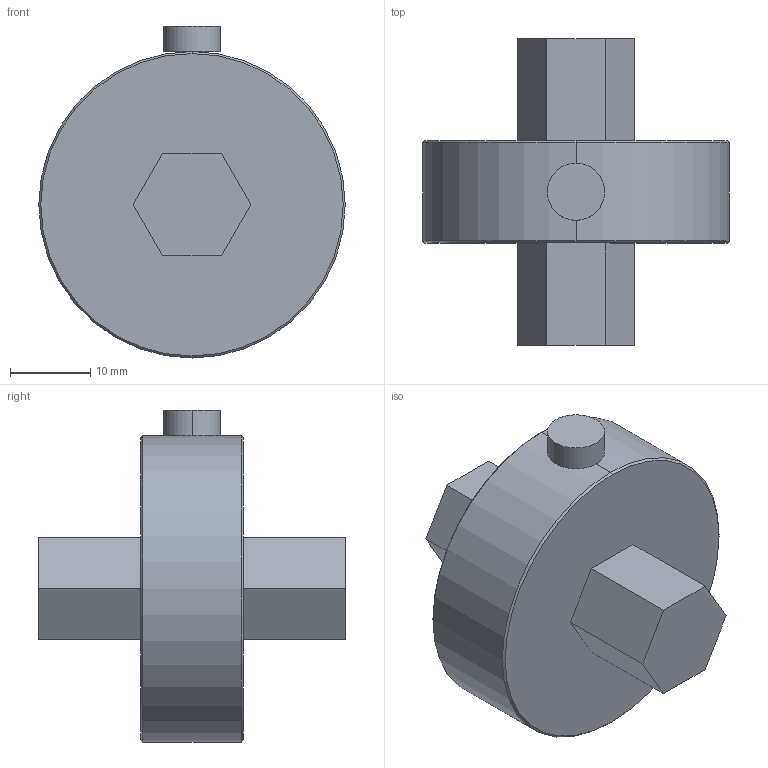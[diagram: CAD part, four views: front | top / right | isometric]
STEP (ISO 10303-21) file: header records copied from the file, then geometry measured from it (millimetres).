
FILE_DESCRIPTION (( 'STEP AP214' ), '1' );
FILE_NAME ('SS1433-300IN-LB.STEP', '2024-09-20T18:06:17', ( '' ), ( '' ), 'SwSTEP 2.0', 'SolidWorks 2008', '' );
FILE_SCHEMA (( 'AUTOMOTIVE_DESIGN' ));
Length unit declared in the file: inch
Products named in the file (1): SS1433-300IN-LB
Bounding box: 38.1 x 38.1 x 41.27 mm (x, y, z)
Volume: 18145.5 mm3; surface area: 5032.4 mm2
Topology: 2 solids, 2 shells, 26 faces, 56 edges, 36 vertices
Faces by surface type: plane 18, cone 4, cylinder 4
Entity records: 738 total; most frequent: DIRECTION 122, CARTESIAN_POINT 119, ORIENTED_EDGE 112, EDGE_CURVE 56, LINE 44, VECTOR 44, AXIS2_PLACEMENT_3D 39, VERTEX_POINT 36
